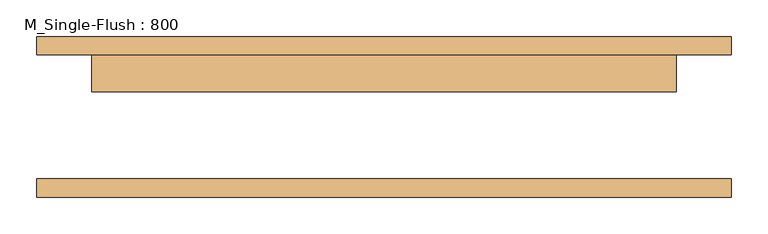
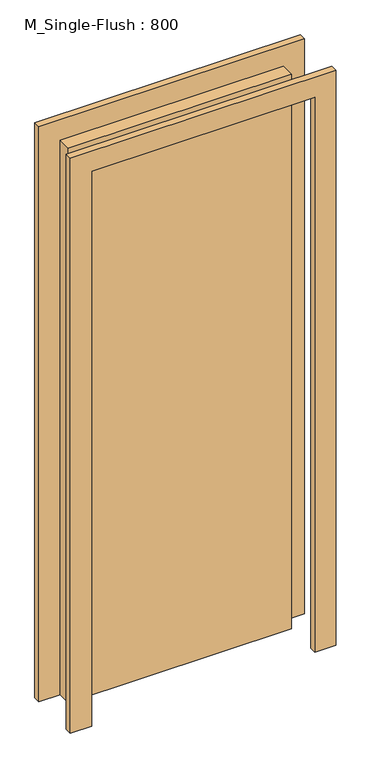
"""IFC4 building model written with IfcOpenShell, lengths in millimetres: door geometry, M_Single-Flush : 800."""

from ifc_helpers import new_model, si_unit, frame, origin, origin_with_axes, place, context, project, spatial, polyline, outline, extrude, source, transform, mapped, element, save


def m_single_flush_800_439f2f28(model_context):
    return source(origin(), model_context, "Body", "SweptSolid", [
        extrude(outline(polyline([(2176.0, -476.0), (0.0, -476.0), (0.0, -400.0), (2100.0, -400.0), (2100.0, 400.0), (0.0, 400.0), (0.0, 476.0), (2176.0, 476.0), (2176.0, -476.0)])), frame((0.0, 85.0, 0.0), z_axis=(0.0, 1.0, 0.0), x_axis=(0.0, 0.0, 1.0)), (0.0, 0.0, 1.0), 25.0),
        extrude(outline(polyline([(2176.0, 476.0), (2176.0, -476.0), (0.0, -476.0), (0.0, -400.0), (2100.0, -400.0), (2100.0, 400.0), (0.0, 400.0), (0.0, 476.0), (2176.0, 476.0)])), frame((0.0, -110.0, 0.0), z_axis=(0.0, 1.0, 0.0), x_axis=(0.0, 0.0, 1.0)), (0.0, 0.0, 1.0), 25.0),
        extrude(outline(polyline([(400.0, 34.0), (-400.0, 34.0), (-400.0, 85.0), (400.0, 85.0), (400.0, 34.0)])), origin_with_axes(), (0.0, 0.0, 1.0), 2100.0),
    ])


if __name__ == "__main__":
    model = new_model("IFC4")
    model_context = context("Model", 3, world=origin())
    ifc_project = project(units=[si_unit("LENGTHUNIT", "METRE", prefix="MILLI")], contexts=[model_context])
    site = spatial("IfcSite", under=ifc_project)
    building = spatial("IfcBuilding", under=site)
    placement = place(None, origin())
    m_single_flush_800_shape = m_single_flush_800_439f2f28(model_context)
    element("IfcDoor", 1, ObjectType="M_Single-Flush : 800", at=placement, inside=building, context=model_context, shape_type="MappedRepresentation", body=[
        mapped(m_single_flush_800_shape, transform((0.0, 0.0, 0.0), x_axis=(1.0, 0.0, 0.0), y_axis=(0.0, 1.0, 0.0), z_axis=(0.0, 0.0, 1.0))),
    ])
    save(model, "model.ifc")
